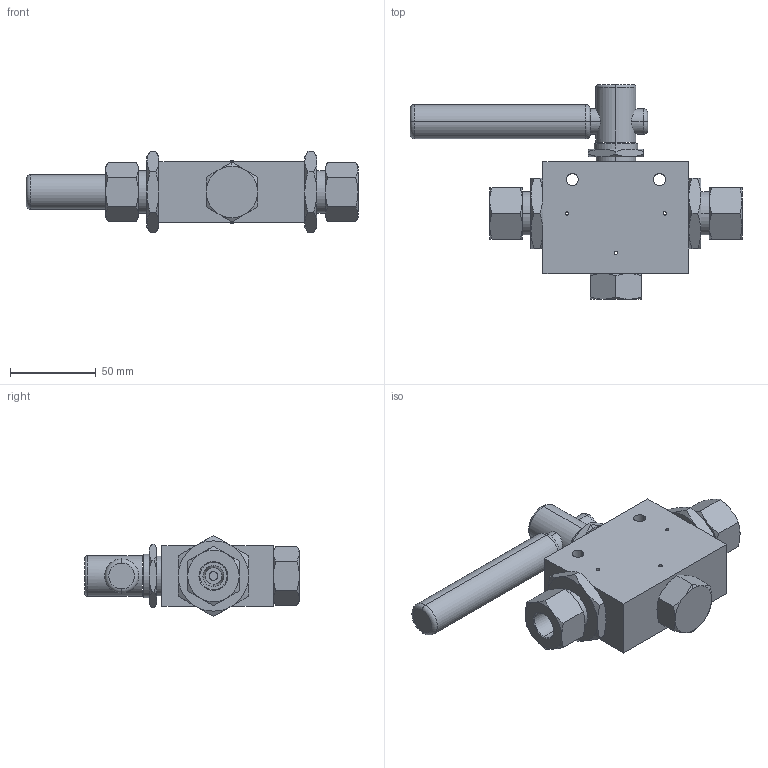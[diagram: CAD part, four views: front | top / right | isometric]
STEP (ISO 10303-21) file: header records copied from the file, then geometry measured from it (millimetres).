
FILE_DESCRIPTION (( 'STEP AP203' ), '1' );
FILE_NAME ('BV1505S06-2-90.STEP', '2022-04-07T10:00:35', ( '' ), ( '' ), 'SwSTEP 2.0', 'SolidWorks 2020', '' );
FILE_SCHEMA (( 'CONFIG_CONTROL_DESIGN' ));
Length unit declared in the file: millimetre
Products named in the file (1): BV1505S06-2-90
Bounding box: 193.5 x 125 x 47.34 mm (x, y, z)
Volume: 305726.7 mm3; surface area: 47632.3 mm2
Topology: 1 solids, 1 shells, 206 faces, 454 edges, 268 vertices
Faces by surface type: cone 86, plane 68, cylinder 44, torus 8
Entity records: 6551 total; most frequent: CARTESIAN_POINT 2085, ORIENTED_EDGE 908, DIRECTION 904, EDGE_CURVE 454, AXIS2_PLACEMENT_3D 395, VERTEX_POINT 268, EDGE_LOOP 238, ADVANCED_FACE 206
